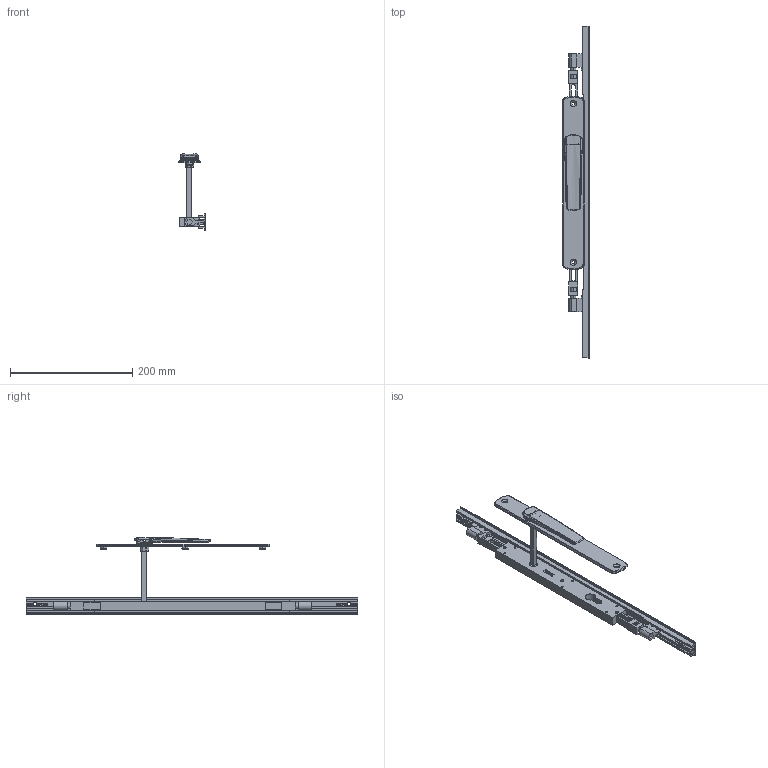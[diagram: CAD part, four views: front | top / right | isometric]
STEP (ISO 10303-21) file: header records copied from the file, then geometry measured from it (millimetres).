
FILE_DESCRIPTION (( 'STEP AP214' ), '1' );
FILE_NAME ('TPL-W-EU-614-L 06Nov2024.STEP', '2024-11-27T03:47:38', ( '' ), ( '' ), 'SwSTEP 2.0', 'SolidWorks 2023', '' );
FILE_SCHEMA (( 'AUTOMOTIVE_DESIGN' ));
Length unit declared in the file: millimetre
Products named in the file (18): Copy of LKC-584 Pivot body zinc - simplified^Copy of TPGen2 handle non-keyed long zinc - simplified_TPL-W-EU-114 04Nov2024; Copy of LKC-585 Rotator body zinc^Copy of TPGen2 handle non-keyed long zinc - simplified_TPL-W-EU-114 04Nov2024; Copy of Adapter CnE - simplfied^TPL-W-EU-114 04Nov2024_26mm backset; Copy of LKC-531 Lock twinpoint transmission rod wood system^TPL-W-EU-114 04Nov2024_Standard Range (588.7mm); Copy of Copy of LKC-531 Lock twinpoint transmission rod wood system^TPL-W-EU-114 04Nov2024_Standard Range 2891.7mm; Copy of LKC-583 Escutcheon plate unkeyed 285mm long zinc - simplified^Copy of TPGen2 handle non-keyed long zinc - simplified_TPL-W-EU-114 04Nov2024; Bolt.step; Copy of TPLGen2 lock body keyed assembly^TPL-W-EU-114 04Nov2024_Bolts extended; Copy of LKC-505 Swing handle zinc - simplified^Copy of TPGen2 handle non-keyed long zinc - simplified_TPL-W-EU-114 04Nov2024; Copy of TPLGen2 lock body keyed^Copy of TPLGen2 lock body keyed assembly_TPL-W-EU-114 04Nov2024; Copy of COV-112-C Cover C TPLGen2 Lock body^TPL-W-EU-114 04Nov2024; Copy of Adapter DnF - simplfied^TPL-W-EU-114 04Nov2024_26mm backset; TPLGen2 push rod - simplified_Female thread M10; TPL-W-EU-614-L 06Nov2024; Copy of LKC-586 Spindle square 8mm with M4 hole^Copy of TPGen2 handle non-keyed long zinc - simplified_TPL-W-EU-114 04Nov2024_100mm; Copy of COV-112-A Cover A suit TPLGen2 standard range^TPL-W-EU-114 04Nov2024_1335mm; Copy of COV-112-B Cover B suit TPLGen2 standard range^TPL-W-EU-114 04Nov2024_2870mm; Copy of TPGen2 handle non-keyed long zinc - simplified^TPL-W-EU-114 04Nov2024_Vertical
Assembly tree (15 placements, depth 3):
  Bolt.step
  TPL-W-EU-614-L 06Nov2024
    Copy of TPLGen2 lock body keyed assembly^TPL-W-EU-114 04Nov2024_Bolts extended
      Copy of TPLGen2 lock body keyed^Copy of TPLGen2 lock body keyed assembly_TPL-W-EU-114 04Nov2024
      TPLGen2 push rod - simplified_Female thread M10  x2
    Copy of TPGen2 handle non-keyed long zinc - simplified^TPL-W-EU-114 04Nov2024_Vertical
      Copy of LKC-583 Escutcheon plate unkeyed 285mm long zinc - simplified^Copy of TPGen2 handle non-keyed long zinc - simplified_TPL-W-EU-114 04Nov2024
      Copy of LKC-505 Swing handle zinc - simplified^Copy of TPGen2 handle non-keyed long zinc - simplified_TPL-W-EU-114 04Nov2024
      Copy of LKC-585 Rotator body zinc^Copy of TPGen2 handle non-keyed long zinc - simplified_TPL-W-EU-114 04Nov2024
      Copy of LKC-586 Spindle square 8mm with M4 hole^Copy of TPGen2 handle non-keyed long zinc - simplified_TPL-W-EU-114 04Nov2024_100mm
      Copy of LKC-584 Pivot body zinc - simplified^Copy of TPGen2 handle non-keyed long zinc - simplified_TPL-W-EU-114 04Nov2024
    Copy of COV-112-C Cover C TPLGen2 Lock body^TPL-W-EU-114 04Nov2024
    Copy of LKC-531 Lock twinpoint transmission rod wood system^TPL-W-EU-114 04Nov2024_Standard Range (588.7mm)
    Copy of Copy of LKC-531 Lock twinpoint transmission rod wood system^TPL-W-EU-114 04Nov2024_Standard Range 2891.7mm
    Copy of Adapter CnE - simplfied^TPL-W-EU-114 04Nov2024_26mm backset
    Copy of Adapter DnF - simplfied^TPL-W-EU-114 04Nov2024_26mm backset
  Copy of COV-112-A Cover A suit TPLGen2 standard range^TPL-W-EU-114 04Nov2024_1335mm
  Copy of COV-112-B Cover B suit TPLGen2 standard range^TPL-W-EU-114 04Nov2024_2870mm
Bounding box: 43.5 x 544 x 125.06 mm (x, y, z)
Volume: 274242.8 mm3; surface area: 137322.3 mm2
Topology: 13 solids, 13 shells, 889 faces, 2193 edges, 1364 vertices
Faces by surface type: plane 310, bspline 241, cylinder 208, cone 70, torus 52, sphere 8
Entity records: 31874 total; most frequent: CARTESIAN_POINT 12777, ORIENTED_EDGE 4194, DIRECTION 3431, EDGE_CURVE 2097, VERTEX_POINT 1304, AXIS2_PLACEMENT_3D 1260, EDGE_LOOP 949, LINE 911
